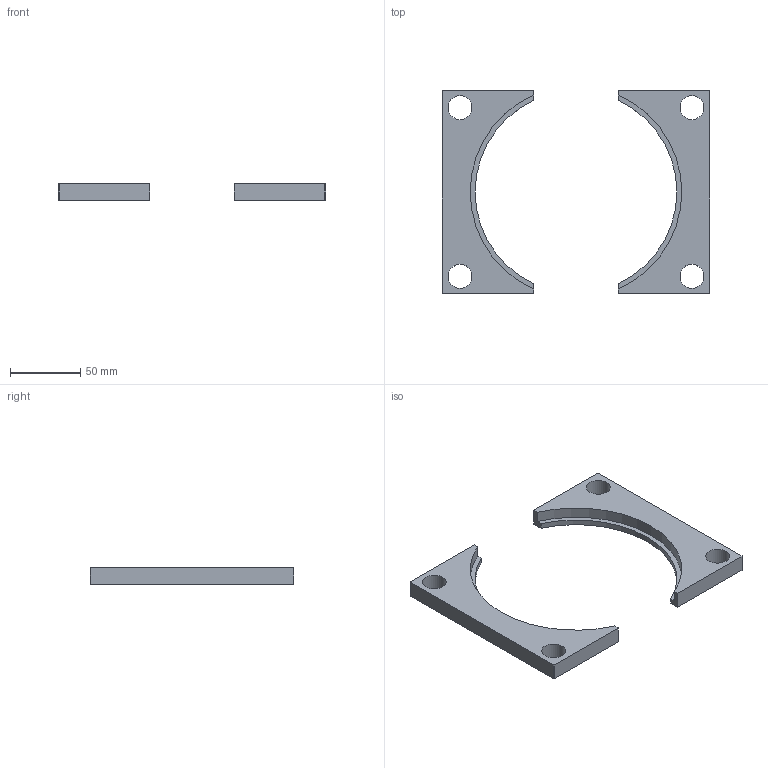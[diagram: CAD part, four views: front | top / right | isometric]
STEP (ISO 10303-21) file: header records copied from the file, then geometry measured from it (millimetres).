
FILE_DESCRIPTION(/* description */ (''),/* implementation_level */ '2;1');
FILE_NAME(/* name */ 'C:\Users\Jefferson\Desktop\Biblioteca Pro Nitro 2024\Flanges\PNB-32-XXX\PNB-32-150.stp',/* time_stamp */ '2024-01-10T17:16:23-03:00',/* author */ ('Jefferson'),/* organization */ (''),/* preprocessor_version */ 'ST-DEVELOPER v18.1',/* originating_system */ 'Autodesk Inventor 2021',/* authorisation */ '');
FILE_SCHEMA (('AUTOMOTIVE_DESIGN { 1 0 10303 214 3 1 1 }'));
Length unit declared in the file: millimetre
Products named in the file (1): PNB-32-150
Bounding box: 190 x 145 x 12 mm (x, y, z)
Volume: 111965.7 mm3; surface area: 33750.3 mm2
Topology: 2 solids, 2 shells, 187 faces, 507 edges, 338 vertices
Faces by surface type: plane 101, bspline 78, cylinder 8
Full cylindrical faces by diameter (mm): 17 x4
Entity records: 6301 total; most frequent: CARTESIAN_POINT 2047, ORIENTED_EDGE 1014, DIRECTION 587, EDGE_CURVE 507, VERTEX_POINT 338, LINE 335, VECTOR 335, EDGE_LOOP 209
